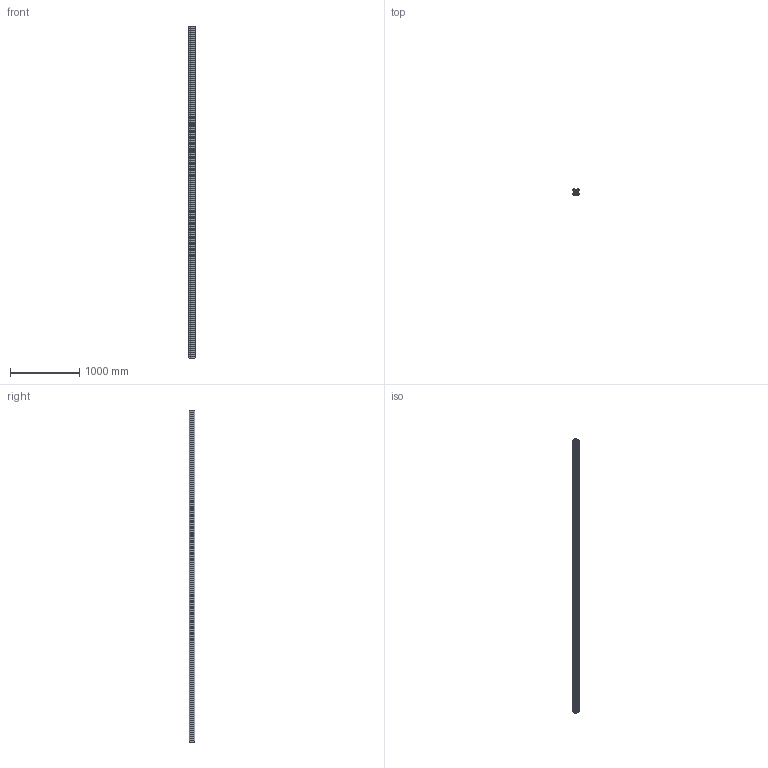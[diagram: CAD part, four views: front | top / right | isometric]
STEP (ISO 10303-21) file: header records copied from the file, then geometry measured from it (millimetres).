
FILE_DESCRIPTION (( 'STEP AP203' ), '1' );
FILE_NAME ('_-_MLF 4 4798 mm lang.step', '2005-09-01T12:47:17', ( ' ' ), ( ' ' ), 'SwSTEP 2.0', 'SolidWorks 2005187', '' );
FILE_SCHEMA (( 'CONFIG_CONTROL_DESIGN' ));
Length unit declared in the file: millimetre
Products named in the file (1): _-_MLF 4  4798 mm lang
Bounding box: 87.56 x 80 x 4798 mm (x, y, z)
Volume: 11055674.9 mm3; surface area: 5923840.1 mm2
Topology: 1 solids, 1 shells, 248 faces, 762 edges, 500 vertices
Faces by surface type: plane 174, cylinder 74
Entity records: 8575 total; most frequent: ORIENTED_EDGE 1524, CARTESIAN_POINT 1511, DIRECTION 1408, EDGE_CURVE 762, LINE 614, VECTOR 614, VERTEX_POINT 500, AXIS2_PLACEMENT_3D 397
